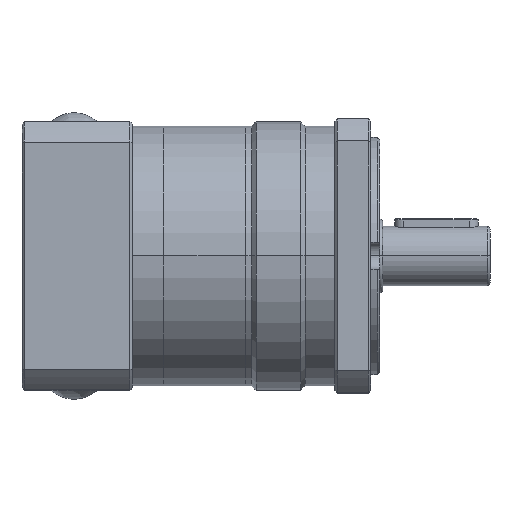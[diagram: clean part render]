
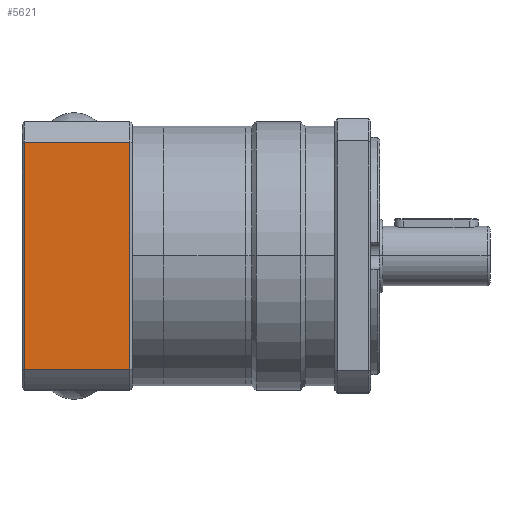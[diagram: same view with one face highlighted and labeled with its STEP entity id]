
A CAD part, top view. The second image highlights one B-rep face of the part: STEP entity #5621.
In plain terms, the highlighted planar face has unit normal (0, 0, 1) as drawn and (1, 0, 0) by its records, which use the part's own axes.
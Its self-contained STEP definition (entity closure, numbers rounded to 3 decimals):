
#132 = AXIS2_PLACEMENT_3D ( 'NONE', #617, #3924, #5468 ) ;
#284 = ORIENTED_EDGE ( 'NONE', *, *, #5662, .F. ) ;
#307 = CARTESIAN_POINT ( 'NONE',  ( 45., -45., 46.7 ) ) ;
#617 = CARTESIAN_POINT ( 'NONE',  ( 45., -45., 47.5 ) ) ;
#889 = EDGE_LOOP ( 'NONE', ( #284, #8208, #2228, #3133 ) ) ;
#982 = CARTESIAN_POINT ( 'NONE',  ( 45., -38.158, 47.5 ) ) ;
#1553 = FACE_OUTER_BOUND ( 'NONE', #889, .T. ) ;
#1610 = VECTOR ( 'NONE', #7593, 1000. ) ;
#1714 = VERTEX_POINT ( 'NONE', #5080 ) ;
#2228 = ORIENTED_EDGE ( 'NONE', *, *, #9110, .F. ) ;
#2319 = DIRECTION ( 'NONE',  ( 0., -1., 0. ) ) ;
#2641 = VECTOR ( 'NONE', #5152, 1000. ) ;
#2719 = VERTEX_POINT ( 'NONE', #10705 ) ;
#2969 = CARTESIAN_POINT ( 'NONE',  ( 45., -38.158, 46.7 ) ) ;
#3034 = CARTESIAN_POINT ( 'NONE',  ( 45., 0., 11.3 ) ) ;
#3133 = ORIENTED_EDGE ( 'NONE', *, *, #8547, .F. ) ;
#3924 = DIRECTION ( 'NONE',  ( -1., 0., 0. ) ) ;
#4789 = LINE ( 'NONE', #3034, #6058 ) ;
#4959 = LINE ( 'NONE', #982, #1610 ) ;
#5080 = CARTESIAN_POINT ( 'NONE',  ( 45., 38.158, 46.7 ) ) ;
#5110 = DIRECTION ( 'NONE',  ( 0., 0., -1. ) ) ;
#5152 = DIRECTION ( 'NONE',  ( 0., 1., 0. ) ) ;
#5468 = DIRECTION ( 'NONE',  ( 0., 0., 1. ) ) ;
#5621 = ADVANCED_FACE ( 'NONE', ( #1553 ), #8892, .F. ) ;
#5662 = EDGE_CURVE ( 'NONE', #8906, #2719, #4789, .T. ) ;
#5763 = CARTESIAN_POINT ( 'NONE',  ( 45., 38.158, 11.3 ) ) ;
#6058 = VECTOR ( 'NONE', #2319, 1000. ) ;
#6910 = EDGE_CURVE ( 'NONE', #1714, #8906, #7865, .T. ) ;
#7535 = LINE ( 'NONE', #307, #2641 ) ;
#7593 = DIRECTION ( 'NONE',  ( 0., 0., 1. ) ) ;
#7865 = LINE ( 'NONE', #9178, #9577 ) ;
#8208 = ORIENTED_EDGE ( 'NONE', *, *, #6910, .F. ) ;
#8547 = EDGE_CURVE ( 'NONE', #2719, #8678, #4959, .T. ) ;
#8678 = VERTEX_POINT ( 'NONE', #2969 ) ;
#8892 = PLANE ( 'NONE',  #132 ) ;
#8906 = VERTEX_POINT ( 'NONE', #5763 ) ;
#9110 = EDGE_CURVE ( 'NONE', #8678, #1714, #7535, .T. ) ;
#9178 = CARTESIAN_POINT ( 'NONE',  ( 45., 38.158, 47.5 ) ) ;
#9577 = VECTOR ( 'NONE', #5110, 1000. ) ;
#10705 = CARTESIAN_POINT ( 'NONE',  ( 45., -38.158, 11.3 ) ) ;
